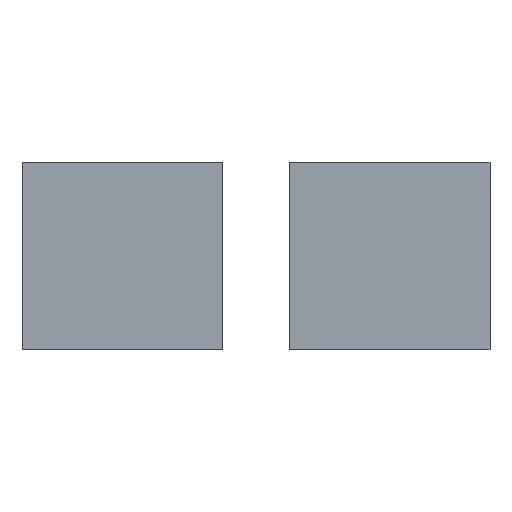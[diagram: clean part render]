
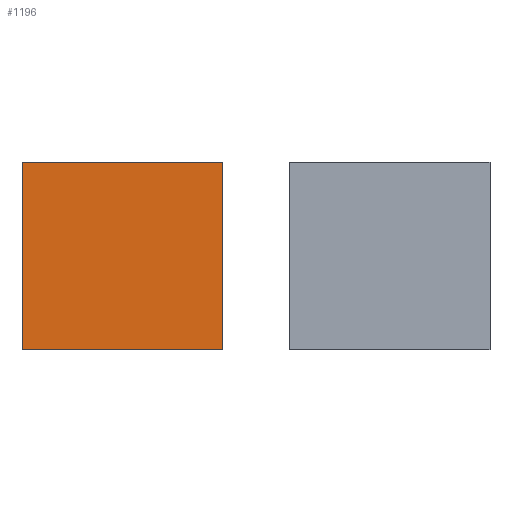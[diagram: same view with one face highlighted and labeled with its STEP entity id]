
A CAD part, top view. The second image highlights one B-rep face of the part: STEP entity #1196.
In plain terms, the highlighted planar face has unit normal (0, 0, 1).
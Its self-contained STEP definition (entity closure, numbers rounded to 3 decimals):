
#9=CARTESIAN_POINT('',(-10.,28.,-17.5));
#10=VERTEX_POINT('',#9);
#17=CARTESIAN_POINT('',(-10.,-28.,-17.5));
#18=VERTEX_POINT('',#17);
#19=CARTESIAN_POINT('',(-10.,28.,-17.5));
#20=DIRECTION('',(0.0,-1.0,0.0));
#21=VECTOR('',#20,56.0);
#22=LINE('',#19,#21);
#23=EDGE_CURVE('',#10,#18,#22,.T.);
#48=CARTESIAN_POINT('',(-70.,-28.,-17.5));
#49=VERTEX_POINT('',#48);
#50=CARTESIAN_POINT('',(-10.,-28.,-17.5));
#51=DIRECTION('',(-1.0,0.0,0.0));
#52=VECTOR('',#51,60.0);
#53=LINE('',#50,#52);
#54=EDGE_CURVE('',#18,#49,#53,.T.);
#79=CARTESIAN_POINT('',(-70.,28.,-17.5));
#80=VERTEX_POINT('',#79);
#81=CARTESIAN_POINT('',(-70.,-28.,-17.5));
#82=DIRECTION('',(0.0,1.0,0.0));
#83=VECTOR('',#82,56.0);
#84=LINE('',#81,#83);
#85=EDGE_CURVE('',#49,#80,#84,.T.);
#110=CARTESIAN_POINT('',(-70.,28.,-17.5));
#111=DIRECTION('',(1.0,0.0,0.0));
#112=VECTOR('',#111,60.0);
#113=LINE('',#110,#112);
#114=EDGE_CURVE('',#80,#10,#113,.T.);
#1185=CARTESIAN_POINT('',(-70.011,28.011,-17.5));
#1186=DIRECTION('',(0.0,0.0,-1.0));
#1187=DIRECTION('',(1.0,0.0,0.0));
#1188=AXIS2_PLACEMENT_3D('',#1185,#1186,#1187);
#1189=PLANE('',#1188);
#1190=ORIENTED_EDGE('',*,*,#114,.F.);
#1191=ORIENTED_EDGE('',*,*,#85,.F.);
#1192=ORIENTED_EDGE('',*,*,#54,.F.);
#1193=ORIENTED_EDGE('',*,*,#23,.F.);
#1194=EDGE_LOOP('',(#1190,#1191,#1192,#1193));
#1195=FACE_OUTER_BOUND('',#1194,.T.);
#1196=ADVANCED_FACE('',(#1195),#1189,.F.);
